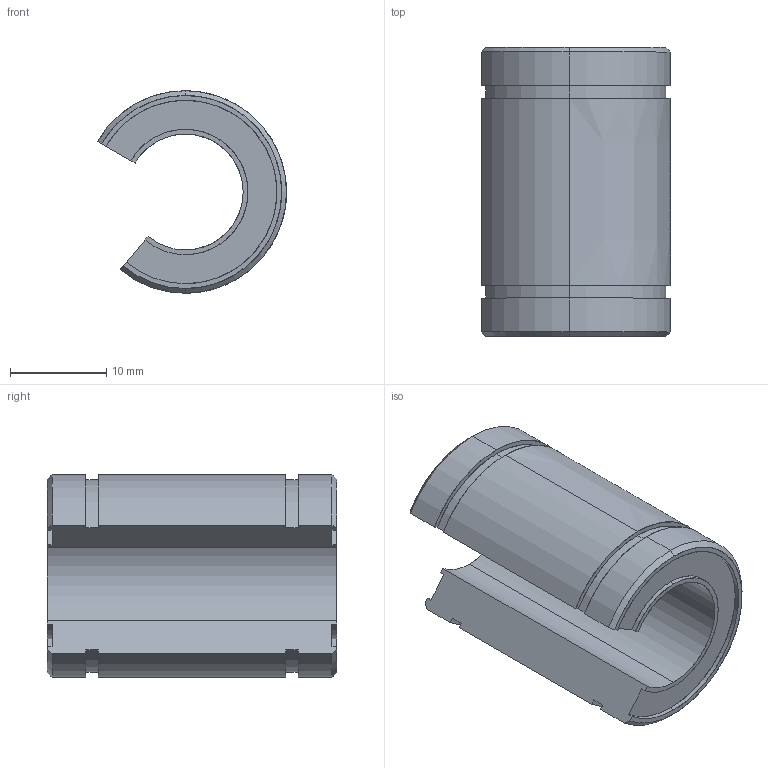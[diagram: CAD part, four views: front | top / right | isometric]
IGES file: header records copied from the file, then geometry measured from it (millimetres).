
Start section: SolidWorks IGES file using analytic representation for surfaces
Global section: file name: D:\SOLIDWORKS PROEKTI\freelance cnc cat\NOV TERK\LM12UUOP.IGS; native system: SolidWorks 2016; preprocessor: SolidWorks 2016; author: User; date: 170805.141257; units: millimetre
Bounding box: 19.59 x 30 x 21 mm (x, y, z)
Surface area: 3190.6 mm2 (no closed solid volume)
Topology: 0 solids, 0 shells, 132 faces, 2136 edges, 2501 vertices
Faces by surface type: bspline 89, revolution 43
